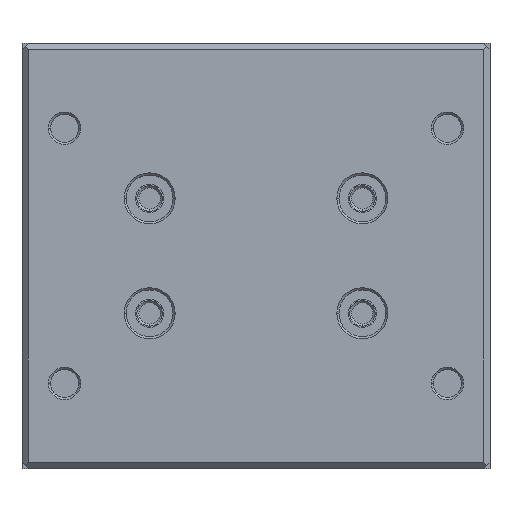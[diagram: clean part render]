
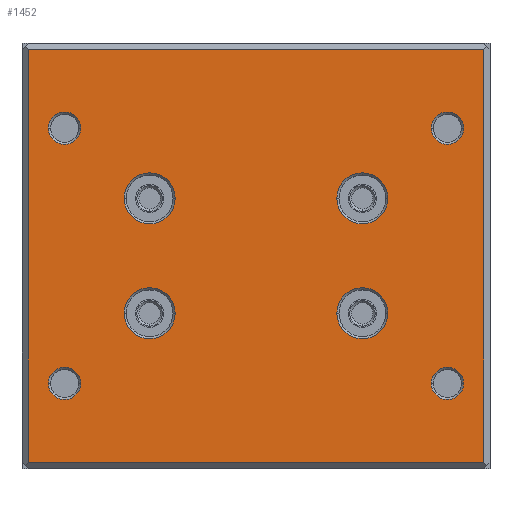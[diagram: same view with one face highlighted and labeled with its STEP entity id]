
A CAD part, top view. The second image highlights one B-rep face of the part: STEP entity #1452.
In plain terms, the highlighted planar face has unit normal (0, 0, 1) as drawn and (0, 0, -1) by its records, which use the part's own axes.
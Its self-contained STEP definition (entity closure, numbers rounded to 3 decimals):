
#1=CARTESIAN_POINT('',(100.,30.,0.));
#2=DIRECTION('',(0.,0.,1.));
#3=DIRECTION('',(1.,0.,0.));
#4=AXIS2_PLACEMENT_3D('',#1,#2,#3);
#6=CARTESIAN_POINT('',(100.,30.,0.));
#7=DIRECTION('',(0.,0.,1.));
#8=DIRECTION('',(-1.,0.,0.));
#9=AXIS2_PLACEMENT_3D('',#6,#7,#8);
#11=CARTESIAN_POINT('',(80.,13.5,0.));
#12=DIRECTION('',(0.,0.,1.));
#13=DIRECTION('',(1.,0.,0.));
#14=AXIS2_PLACEMENT_3D('',#11,#12,#13);
#16=CARTESIAN_POINT('',(80.,13.5,0.));
#17=DIRECTION('',(0.,0.,1.));
#18=DIRECTION('',(-1.,0.,0.));
#19=AXIS2_PLACEMENT_3D('',#16,#17,#18);
#21=CARTESIAN_POINT('',(80.,-13.5,0.));
#22=DIRECTION('',(0.,0.,1.));
#23=DIRECTION('',(1.,0.,0.));
#24=AXIS2_PLACEMENT_3D('',#21,#22,#23);
#26=CARTESIAN_POINT('',(80.,-13.5,0.));
#27=DIRECTION('',(0.,0.,1.));
#28=DIRECTION('',(-1.,0.,0.));
#29=AXIS2_PLACEMENT_3D('',#26,#27,#28);
#31=CARTESIAN_POINT('',(100.,-30.,0.));
#32=DIRECTION('',(0.,0.,1.));
#33=DIRECTION('',(1.,0.,0.));
#34=AXIS2_PLACEMENT_3D('',#31,#32,#33);
#36=CARTESIAN_POINT('',(100.,-30.,0.));
#37=DIRECTION('',(0.,0.,1.));
#38=DIRECTION('',(-1.,0.,0.));
#39=AXIS2_PLACEMENT_3D('',#36,#37,#38);
#41=CARTESIAN_POINT('',(10.,-30.,0.));
#42=DIRECTION('',(0.,0.,1.));
#43=DIRECTION('',(1.,0.,0.));
#44=AXIS2_PLACEMENT_3D('',#41,#42,#43);
#46=CARTESIAN_POINT('',(10.,-30.,0.));
#47=DIRECTION('',(0.,0.,1.));
#48=DIRECTION('',(-1.,0.,0.));
#49=AXIS2_PLACEMENT_3D('',#46,#47,#48);
#51=CARTESIAN_POINT('',(30.,-13.5,0.));
#52=DIRECTION('',(0.,0.,1.));
#53=DIRECTION('',(1.,0.,0.));
#54=AXIS2_PLACEMENT_3D('',#51,#52,#53);
#56=CARTESIAN_POINT('',(30.,-13.5,0.));
#57=DIRECTION('',(0.,0.,1.));
#58=DIRECTION('',(-1.,0.,0.));
#59=AXIS2_PLACEMENT_3D('',#56,#57,#58);
#61=CARTESIAN_POINT('',(30.,13.5,0.));
#62=DIRECTION('',(0.,0.,1.));
#63=DIRECTION('',(-1.,0.,0.));
#64=AXIS2_PLACEMENT_3D('',#61,#62,#63);
#66=CARTESIAN_POINT('',(30.,13.5,0.));
#67=DIRECTION('',(0.,0.,1.));
#68=DIRECTION('',(1.,0.,0.));
#69=AXIS2_PLACEMENT_3D('',#66,#67,#68);
#71=CARTESIAN_POINT('',(10.,30.,0.));
#72=DIRECTION('',(0.,0.,1.));
#73=DIRECTION('',(-1.,0.,0.));
#74=AXIS2_PLACEMENT_3D('',#71,#72,#73);
#76=CARTESIAN_POINT('',(10.,30.,0.));
#77=DIRECTION('',(0.,0.,1.));
#78=DIRECTION('',(1.,0.,0.));
#79=AXIS2_PLACEMENT_3D('',#76,#77,#78);
#81=DIRECTION('',(1.,0.,0.));
#82=VECTOR('',#81,107.);
#83=CARTESIAN_POINT('',(1.5,48.5,0.));
#84=LINE('',#83,#82);
#85=DIRECTION('',(0.,1.,0.));
#86=VECTOR('',#85,97.);
#87=CARTESIAN_POINT('',(1.5,-48.5,0.));
#88=LINE('',#87,#86);
#89=DIRECTION('',(-1.,0.,0.));
#90=VECTOR('',#89,107.);
#91=CARTESIAN_POINT('',(108.5,-48.5,0.));
#92=LINE('',#91,#90);
#93=DIRECTION('',(0.,-1.,0.));
#94=VECTOR('',#93,97.);
#95=CARTESIAN_POINT('',(108.5,48.5,0.));
#96=LINE('',#95,#94);
#1181=CARTESIAN_POINT('',(103.8,30.,0.));
#1182=CARTESIAN_POINT('',(96.2,30.,0.));
#1183=VERTEX_POINT('',#1181);
#1184=VERTEX_POINT('',#1182);
#1189=CARTESIAN_POINT('',(86.,13.5,0.));
#1190=CARTESIAN_POINT('',(74.,13.5,0.));
#1191=VERTEX_POINT('',#1189);
#1192=VERTEX_POINT('',#1190);
#1197=CARTESIAN_POINT('',(86.,-13.5,0.));
#1198=CARTESIAN_POINT('',(74.,-13.5,0.));
#1199=VERTEX_POINT('',#1197);
#1200=VERTEX_POINT('',#1198);
#1205=CARTESIAN_POINT('',(103.8,-30.,0.));
#1206=CARTESIAN_POINT('',(96.2,-30.,0.));
#1207=VERTEX_POINT('',#1205);
#1208=VERTEX_POINT('',#1206);
#1213=CARTESIAN_POINT('',(13.8,-30.,0.));
#1214=CARTESIAN_POINT('',(6.2,-30.,0.));
#1215=VERTEX_POINT('',#1213);
#1216=VERTEX_POINT('',#1214);
#1221=CARTESIAN_POINT('',(36.,-13.5,0.));
#1222=CARTESIAN_POINT('',(24.,-13.5,0.));
#1223=VERTEX_POINT('',#1221);
#1224=VERTEX_POINT('',#1222);
#1229=CARTESIAN_POINT('',(24.,13.5,0.));
#1230=CARTESIAN_POINT('',(36.,13.5,0.));
#1231=VERTEX_POINT('',#1229);
#1232=VERTEX_POINT('',#1230);
#1237=CARTESIAN_POINT('',(6.2,30.,0.));
#1238=CARTESIAN_POINT('',(13.8,30.,0.));
#1239=VERTEX_POINT('',#1237);
#1240=VERTEX_POINT('',#1238);
#1337=CARTESIAN_POINT('',(1.5,48.5,0.));
#1338=CARTESIAN_POINT('',(108.5,48.5,0.));
#1339=VERTEX_POINT('',#1337);
#1340=VERTEX_POINT('',#1338);
#1341=CARTESIAN_POINT('',(108.5,-48.5,0.));
#1342=VERTEX_POINT('',#1341);
#1343=CARTESIAN_POINT('',(1.5,-48.5,0.));
#1344=VERTEX_POINT('',#1343);
#1389=CARTESIAN_POINT('',(0.,0.,0.));
#1390=DIRECTION('',(0.,0.,1.));
#1391=DIRECTION('',(1.,0.,0.));
#1392=AXIS2_PLACEMENT_3D('',#1389,#1390,#1391);
#1393=PLANE('',#1392);
#1395=ORIENTED_EDGE('',*,*,#1394,.F.);
#1397=ORIENTED_EDGE('',*,*,#1396,.F.);
#1399=ORIENTED_EDGE('',*,*,#1398,.F.);
#1401=ORIENTED_EDGE('',*,*,#1400,.F.);
#1402=EDGE_LOOP('',(#1395,#1397,#1399,#1401));
#1403=FACE_OUTER_BOUND('',#1402,.F.);
#1405=ORIENTED_EDGE('',*,*,#1404,.F.);
#1407=ORIENTED_EDGE('',*,*,#1406,.F.);
#1408=EDGE_LOOP('',(#1405,#1407));
#1409=FACE_BOUND('',#1408,.F.);
#1411=ORIENTED_EDGE('',*,*,#1410,.F.);
#1413=ORIENTED_EDGE('',*,*,#1412,.F.);
#1414=EDGE_LOOP('',(#1411,#1413));
#1415=FACE_BOUND('',#1414,.F.);
#1417=ORIENTED_EDGE('',*,*,#1416,.F.);
#1419=ORIENTED_EDGE('',*,*,#1418,.F.);
#1420=EDGE_LOOP('',(#1417,#1419));
#1421=FACE_BOUND('',#1420,.F.);
#1423=ORIENTED_EDGE('',*,*,#1422,.F.);
#1425=ORIENTED_EDGE('',*,*,#1424,.F.);
#1426=EDGE_LOOP('',(#1423,#1425));
#1427=FACE_BOUND('',#1426,.F.);
#1429=ORIENTED_EDGE('',*,*,#1428,.F.);
#1431=ORIENTED_EDGE('',*,*,#1430,.F.);
#1432=EDGE_LOOP('',(#1429,#1431));
#1433=FACE_BOUND('',#1432,.F.);
#1435=ORIENTED_EDGE('',*,*,#1434,.F.);
#1437=ORIENTED_EDGE('',*,*,#1436,.F.);
#1438=EDGE_LOOP('',(#1435,#1437));
#1439=FACE_BOUND('',#1438,.F.);
#1441=ORIENTED_EDGE('',*,*,#1440,.F.);
#1443=ORIENTED_EDGE('',*,*,#1442,.F.);
#1444=EDGE_LOOP('',(#1441,#1443));
#1445=FACE_BOUND('',#1444,.F.);
#1447=ORIENTED_EDGE('',*,*,#1446,.F.);
#1449=ORIENTED_EDGE('',*,*,#1448,.F.);
#1450=EDGE_LOOP('',(#1447,#1449));
#1451=FACE_BOUND('',#1450,.F.);
#1452=ADVANCED_FACE('',(#1403,#1409,#1415,#1421,#1427,#1433,#1439,#1445,#1451),
#1393,.F.);
#5=CIRCLE('',#4,3.8);
#10=CIRCLE('',#9,3.8);
#15=CIRCLE('',#14,6.);
#20=CIRCLE('',#19,6.);
#25=CIRCLE('',#24,6.);
#30=CIRCLE('',#29,6.);
#35=CIRCLE('',#34,3.8);
#40=CIRCLE('',#39,3.8);
#45=CIRCLE('',#44,3.8);
#50=CIRCLE('',#49,3.8);
#55=CIRCLE('',#54,6.);
#60=CIRCLE('',#59,6.);
#65=CIRCLE('',#64,6.);
#70=CIRCLE('',#69,6.);
#75=CIRCLE('',#74,3.8);
#80=CIRCLE('',#79,3.8);
#1394=EDGE_CURVE('',#1339,#1340,#84,.T.);
#1396=EDGE_CURVE('',#1344,#1339,#88,.T.);
#1398=EDGE_CURVE('',#1342,#1344,#92,.T.);
#1400=EDGE_CURVE('',#1340,#1342,#96,.T.);
#1404=EDGE_CURVE('',#1191,#1192,#15,.T.);
#1406=EDGE_CURVE('',#1192,#1191,#20,.T.);
#1410=EDGE_CURVE('',#1199,#1200,#25,.T.);
#1412=EDGE_CURVE('',#1200,#1199,#30,.T.);
#1416=EDGE_CURVE('',#1207,#1208,#35,.T.);
#1418=EDGE_CURVE('',#1208,#1207,#40,.T.);
#1422=EDGE_CURVE('',#1215,#1216,#45,.T.);
#1424=EDGE_CURVE('',#1216,#1215,#50,.T.);
#1428=EDGE_CURVE('',#1223,#1224,#55,.T.);
#1430=EDGE_CURVE('',#1224,#1223,#60,.T.);
#1434=EDGE_CURVE('',#1231,#1232,#65,.T.);
#1436=EDGE_CURVE('',#1232,#1231,#70,.T.);
#1440=EDGE_CURVE('',#1239,#1240,#75,.T.);
#1442=EDGE_CURVE('',#1240,#1239,#80,.T.);
#1446=EDGE_CURVE('',#1183,#1184,#5,.T.);
#1448=EDGE_CURVE('',#1184,#1183,#10,.T.);
